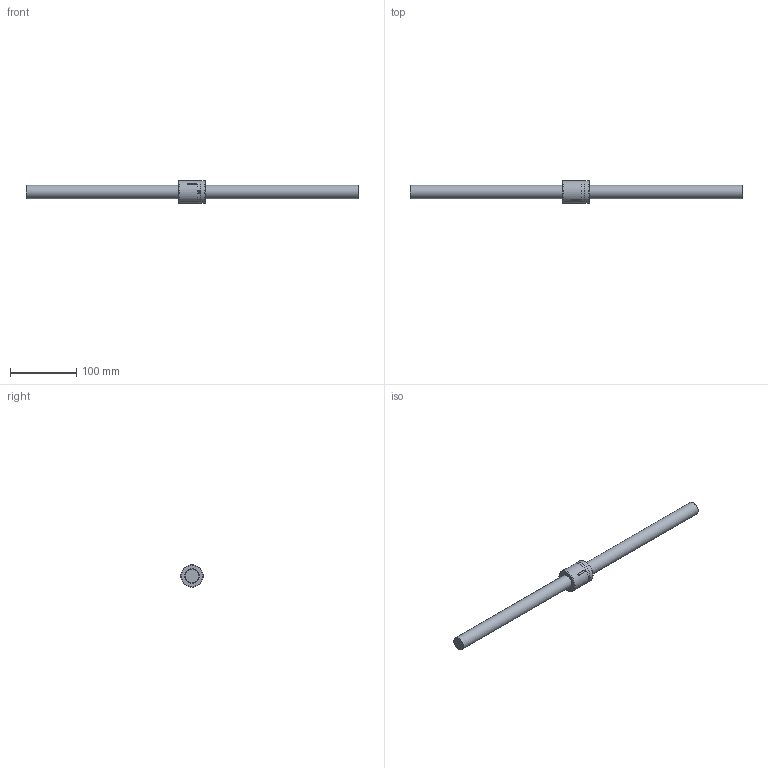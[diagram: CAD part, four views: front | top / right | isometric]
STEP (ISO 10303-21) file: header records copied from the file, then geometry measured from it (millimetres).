
FILE_DESCRIPTION (( 'STEP AP203' ), '1' );
FILE_NAME ('SCI02004-4.step', '2024-05-23T08:29:28', ( '' ), ( '' ), 'SwSTEP 2.0', 'SolidWorks 2022', '' );
FILE_SCHEMA (( 'CONFIG_CONTROL_DESIGN' ));
Length unit declared in the file: millimetre
Products named in the file (1): SCI02004-4
Bounding box: 500 x 34 x 34 mm (x, y, z)
Volume: 178513.8 mm3; surface area: 40116.8 mm2
Topology: 2 solids, 2 shells, 17 faces, 35 edges, 23 vertices
Faces by surface type: cylinder 7, plane 7, torus 3
Full cylindrical faces by diameter (mm): 3.5 x1, 20 x1, 21.6 x1, 34 x2
Entity records: 619 total; most frequent: CARTESIAN_POINT 220, DIRECTION 68, ORIENTED_EDGE 48, AXIS2_PLACEMENT_3D 30, EDGE_LOOP 30, FACE_OUTER_BOUND 25, EDGE_CURVE 24, VERTEX_POINT 20
